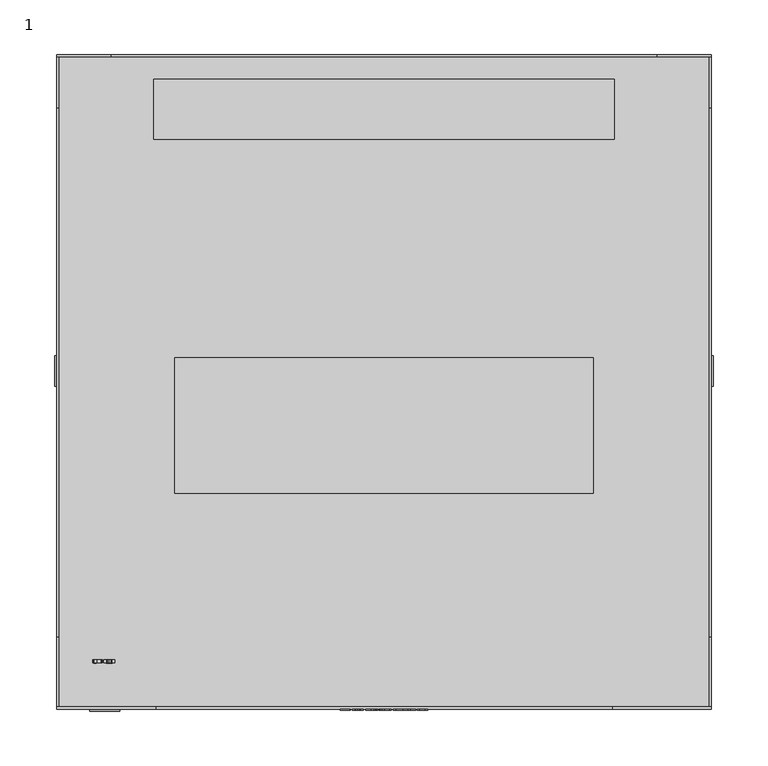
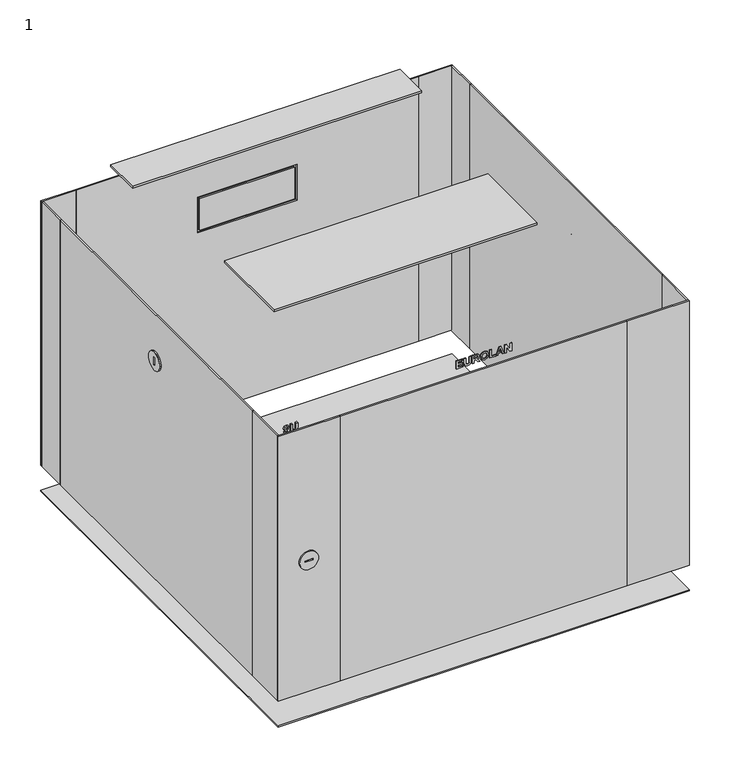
"""IFC4 building model written with IfcOpenShell, lengths in millimetres: proxy geometry, 1 : 9U 600мм стеклянная дверь."""

from ifc_helpers import new_model, si_unit, point, frame, frame_2d, origin, origin_with_axes, place, context, project, spatial, polyline, circle_curve, trimmed, segment, composite_curve, outline, extrude, source, transform, mapped, element, save


def proxy_1_adbcd2c0(model_context):
    return source(origin(), model_context, "Body", "SweptSolid", [
        extrude(outline(polyline([(462.0, -40.3245382), (462.0, -30.9964522), (464.1376864, -30.9964522), (464.1376864, -37.9925167), (467.2470483, -37.9925167), (467.2470483, -31.5794576), (469.3847347, -31.5794576), (469.3847347, -37.9925167), (472.1054264, -37.9925167), (472.1054264, -31.1907874), (474.2431128, -31.1907874), (474.2431128, -40.3245382), (462.0, -40.3245382)])), frame((0.0, -301.0, 0.0), z_axis=(0.0, 1.0, 0.0), x_axis=(0.0, 0.0, 1.0)), (0.0, 0.0, 1.0), 1.0),
        extrude(outline(polyline([(474.2431128, -29.053101), (467.7207402, -29.053101), (464.6174512, -28.8071456), (463.2601418, -28.1026808), (462.2095176, -26.6482039), (461.8056649, -23.9487675), (462.1761162, -21.5575346), (463.173602, -20.0954664), (464.7085458, -19.3454543), (467.8209443, -19.1420097), (474.2431128, -19.1420097), (474.2431128, -21.4740312), (467.4960402, -21.4740312), (465.4236383, -21.5924541), (464.3714958, -22.2923642), (463.9433512, -24.0216432), (464.3973059, -25.7979877), (465.5982363, -26.6208755), (467.6387551, -26.7210795), (474.2431128, -26.7210795), (474.2431128, -29.053101)])), frame((0.0, -301.0, 0.0), z_axis=(0.0, 1.0, 0.0), x_axis=(0.0, 0.0, 1.0)), (0.0, 0.0, 1.0), 1.0),
        extrude(outline(polyline([(462.0, -16.8099882), (462.0, -14.4779667), (467.0527132, -13.9435451), (466.9251808, -12.6120459), (466.4560437, -11.8164865), (464.7966039, -10.4242575), (462.0, -8.6509495), (462.0, -5.9272213), (464.3745323, -7.424209), (466.3512849, -8.7238252), (467.3715443, -9.9475291), (468.5071902, -7.6625732), (470.7936644, -6.8988969), (472.7339791, -7.4272455), (473.9121358, -8.8361752), (474.2431128, -11.6601074), (474.2431128, -16.8099882), (462.0, -16.8099882)]), holes=[polyline([(469.1903996, -14.4779667), (472.1054264, -14.4779667), (472.1054264, -12.4495939), (472.0659521, -10.5548264), (471.6150339, -9.5770778), (470.6782779, -9.2309184), (469.817434, -9.4935744), (469.3315962, -10.2223312), (469.1903996, -12.5558709), (469.1903996, -14.4779667)])]), frame((0.0, -301.0, 0.0), z_axis=(0.0, 1.0, 0.0), x_axis=(0.0, 0.0, 1.0)), (0.0, 0.0, 1.0), 1.0),
        extrude(outline(polyline([(468.0456442, -4.9555457), (463.4681411, -3.3735363), (461.8056649, 0.8896905), (463.4757323, 5.1225524), (468.106374, 6.7045618), (472.7628257, 5.1104065), (474.4374479, 0.8593256), (473.9546466, -1.7338337), (472.8539203, -3.2869964), (471.1792981, -4.4059416), (468.0456442, -4.9555457)]), holes=[polyline([(468.1306659, -2.6235242), (471.2612832, -1.6579215), (472.2997616, 0.886654), (471.2734292, 3.4190836), (468.1640672, 4.3725403), (464.9985302, 3.3932735), (463.9433512, 0.886654), (465.0061214, -1.6321114), (468.1306659, -2.6235242)])]), frame((0.0, -301.0, 0.0), z_axis=(0.0, 1.0, 0.0), x_axis=(0.0, 0.0, 1.0)), (0.0, 0.0, 1.0), 1.0),
        extrude(outline(polyline([(462.0, 8.647913), (462.0, 17.1986585), (464.1376864, 17.1986585), (464.1376864, 10.9799345), (474.2431128, 10.9799345), (474.2431128, 8.647913), (462.0, 8.647913)])), frame((0.0, -301.0, 0.0), z_axis=(0.0, 1.0, 0.0), x_axis=(0.0, 0.0, 1.0)), (0.0, 0.0, 1.0), 1.0),
        extrude(outline(polyline([(462.0, 29.2474361), (474.2431128, 24.7352175), (474.2431128, 22.2513717), (462.0, 17.7816638), (462.0, 20.2655096), (464.7206917, 21.2128934), (464.7206917, 25.837462), (462.0, 26.7969917), (462.0, 29.2474361)]), holes=[polyline([(466.8583781, 25.0904864), (466.8583781, 21.959869), (471.3280859, 23.51455), (466.8583781, 25.0904864)])]), frame((0.0, -301.0, 0.0), z_axis=(0.0, 1.0, 0.0), x_axis=(0.0, 0.0, 1.0)), (0.0, 0.0, 1.0), 1.0),
        extrude(outline(polyline([(462.0, 30.4134469), (462.0, 32.7454684), (470.1195644, 32.7454684), (462.0, 37.8042546), (462.0, 40.3245382), (474.2431128, 40.3245382), (474.2431128, 37.9925167), (466.002089, 37.9925167), (474.2431128, 32.8578184), (474.2431128, 30.4134469), (462.0, 30.4134469)])), frame((0.0, -301.0, 0.0), z_axis=(0.0, 1.0, 0.0), x_axis=(0.0, 0.0, 1.0)), (0.0, 0.0, 1.0), 1.0),
        extrude(outline(composite_curve([segment(trimmed(circle_curve(frame_2d((9.997621, 377.4611412)), 14.0), [point((-4.002379, 377.4611412))], [point((23.997621, 377.4611412))], False, "CARTESIAN"), True, "CONTINUOUS"), segment(trimmed(circle_curve(frame_2d((9.997621, 377.4611412)), 14.0), [point((23.997621, 377.4611412))], [point((-4.002379, 377.4611412))], False, "CARTESIAN"), True, "CONTINUOUS")], self_intersect=False), holes=[polyline([(11.0, 383.5), (9.0, 383.5), (9.0, 371.5), (11.0, 371.5), (11.0, 383.5)])]), frame((-302.0, 0.0, 0.0), z_axis=(1.0, 0.0, 0.0), x_axis=(0.0, 1.0, 0.0)), (0.0, 0.0, 1.0), 2.0),
        extrude(outline(composite_curve([segment(trimmed(circle_curve(frame_2d((9.997621, 377.4611412)), 14.0), [point((-4.002379, 377.4611412))], [point((23.997621, 377.4611412))], False, "CARTESIAN"), True, "CONTINUOUS"), segment(trimmed(circle_curve(frame_2d((9.997621, 377.4611412)), 14.0), [point((23.997621, 377.4611412))], [point((-4.002379, 377.4611412))], False, "CARTESIAN"), True, "CONTINUOUS")], self_intersect=False), holes=[polyline([(11.0, 383.5), (9.0, 383.5), (9.0, 371.5), (11.0, 371.5), (11.0, 383.5)])]), frame((300.0, 0.0, 0.0), z_axis=(1.0, 0.0, 0.0), x_axis=(0.0, 1.0, 0.0)), (0.0, 0.0, 1.0), 2.0),
        extrude(outline(composite_curve([segment(trimmed(circle_curve(frame_2d((243.0, -256.0)), 13.7647373), [point((243.0, -242.2352627))], [point((243.0, -269.7647373))], False, "CARTESIAN"), True, "CONTINUOUS"), segment(trimmed(circle_curve(frame_2d((243.0, -256.0)), 13.7647373), [point((243.0, -269.7647373))], [point((243.0, -242.2352627))], False, "CARTESIAN"), True, "CONTINUOUS")], self_intersect=False), holes=[polyline([(244.0, -250.0), (242.0, -250.0), (242.0, -262.0), (244.0, -262.0), (244.0, -250.0)])]), frame((0.0, -302.0, 0.0), z_axis=(0.0, 1.0, 0.0), x_axis=(0.0, 0.0, 1.0)), (0.0, 0.0, 1.0), 2.0),
        extrude(outline(polyline([(300.0, 300.0), (300.0, -300.0), (-300.0, -300.0), (-300.0, 300.0), (300.0, 300.0)])), origin_with_axes(), (0.0, 0.0, 1.0), 2.0),
        extrude(outline(polyline([(211.0, 277.5), (211.0, 222.5), (-211.0, 222.5), (-211.0, 277.5), (211.0, 277.5)])), frame((0.0, 0.0, 482.9795778), z_axis=(0.0, 0.0, 1.0), x_axis=(1.0, 0.0, 0.0)), (0.0, 0.0, 1.0), 3.0204222),
        extrude(outline(polyline([(192.0, 22.0), (192.0, -102.0), (-192.0, -102.0), (-192.0, 22.0), (192.0, 22.0)])), frame((0.0, 0.0, 482.9795778), z_axis=(0.0, 0.0, 1.0), x_axis=(1.0, 0.0, 0.0)), (0.0, 0.0, 1.0), 3.0204222),
        extrude(outline(polyline([(-69.5, 300.0), (69.5, 300.0), (69.5, 298.0), (-69.5, 298.0), (-69.5, 300.0)])), frame((0.0, 0.0, 323.0), z_axis=(0.0, 0.0, 1.0), x_axis=(1.0, 0.0, 0.0)), (0.0, 0.0, 1.0), 49.0),
        extrude(outline(polyline([(448.0, -250.0), (40.0, -250.0), (40.0, 250.0), (448.0, 250.0), (448.0, -250.0)]), holes=[polyline([(375.0, -72.5), (375.0, 72.5), (320.0, 72.5), (320.0, -72.5), (375.0, -72.5)])]), frame((0.0, 298.0, 0.0), z_axis=(0.0, 1.0, 0.0), x_axis=(0.0, 0.0, 1.0)), (0.0, 0.0, 1.0), 2.0),
        extrude(outline(polyline([(-300.0, 300.0), (-250.0, 300.0), (-250.0, 298.0), (-300.0, 298.0), (-300.0, 300.0)])), frame((0.0, 0.0, 40.0), z_axis=(0.0, 0.0, 1.0), x_axis=(1.0, 0.0, 0.0)), (0.0, 0.0, 1.0), 408.0),
        extrude(outline(polyline([(250.0, 300.0), (300.0, 300.0), (300.0, 298.0), (250.0, 298.0), (250.0, 300.0)])), frame((0.0, 0.0, 40.0), z_axis=(0.0, 0.0, 1.0), x_axis=(1.0, 0.0, 0.0)), (0.0, 0.0, 1.0), 408.0),
        extrude(outline(polyline([(-209.0, -298.0), (209.0, -298.0), (209.0, -300.0), (-209.0, -300.0), (-209.0, -298.0)])), frame((0.0, 0.0, 40.0), z_axis=(0.0, 0.0, 1.0), x_axis=(1.0, 0.0, 0.0)), (0.0, 0.0, 1.0), 408.0),
        extrude(outline(polyline([(209.0, -298.0), (300.0, -298.0), (300.0, -300.0), (209.0, -300.0), (209.0, -298.0)])), frame((0.0, 0.0, 40.0), z_axis=(0.0, 0.0, 1.0), x_axis=(1.0, 0.0, 0.0)), (0.0, 0.0, 1.0), 408.0),
        extrude(outline(polyline([(-300.0, -298.0), (-209.0, -298.0), (-209.0, -300.0), (-300.0, -300.0), (-300.0, -298.0)])), frame((0.0, 0.0, 40.0), z_axis=(0.0, 0.0, 1.0), x_axis=(1.0, 0.0, 0.0)), (0.0, 0.0, 1.0), 408.0),
        extrude(outline(polyline([(-298.0, 250.8155315), (-298.0, -233.7095641), (-300.0, -233.7095641), (-300.0, 250.8155315), (-298.0, 250.8155315)])), frame((0.0, 0.0, 40.0), z_axis=(0.0, 0.0, 1.0), x_axis=(1.0, 0.0, 0.0)), (0.0, 0.0, 1.0), 408.0),
        extrude(outline(polyline([(-298.0, -233.7095641), (-298.0, -300.0), (-300.0, -300.0), (-300.0, -233.7095641), (-298.0, -233.7095641)])), frame((0.0, 0.0, 40.0), z_axis=(0.0, 0.0, 1.0), x_axis=(1.0, 0.0, 0.0)), (0.0, 0.0, 1.0), 408.0),
        extrude(outline(polyline([(-298.0, 300.0), (-298.0, 250.8155315), (-300.0, 250.8155315), (-300.0, 300.0), (-298.0, 300.0)])), frame((0.0, 0.0, 40.0), z_axis=(0.0, 0.0, 1.0), x_axis=(1.0, 0.0, 0.0)), (0.0, 0.0, 1.0), 408.0),
        extrude(outline(polyline([(300.0, 250.8155315), (300.0, -233.7095641), (298.0, -233.7095641), (298.0, 250.8155315), (300.0, 250.8155315)])), frame((0.0, 0.0, 40.0), z_axis=(0.0, 0.0, 1.0), x_axis=(1.0, 0.0, 0.0)), (0.0, 0.0, 1.0), 408.0),
        extrude(outline(polyline([(300.0, 300.0), (300.0, 250.8155315), (298.0, 250.8155315), (298.0, 300.0), (300.0, 300.0)])), frame((0.0, 0.0, 40.0), z_axis=(0.0, 0.0, 1.0), x_axis=(1.0, 0.0, 0.0)), (0.0, 0.0, 1.0), 408.0),
        extrude(outline(polyline([(300.0, -233.7095641), (300.0, -300.0), (298.0, -300.0), (298.0, -233.7095641), (300.0, -233.7095641)])), frame((0.0, 0.0, 40.0), z_axis=(0.0, 0.0, 1.0), x_axis=(1.0, 0.0, 0.0)), (0.0, 0.0, 1.0), 408.0),
        extrude(outline(polyline([(416.2414631, -266.2387962), (413.8062011, -265.1547706), (412.9924228, -262.9381356), (414.4696734, -259.8469925), (419.2870589, -258.6597264), (423.9981674, -259.7953723), (425.4298707, -262.7012897), (424.3169985, -265.3809888), (421.3852709, -266.4331314), (418.550711, -265.4083172), (417.4621306, -262.971537), (418.476317, -260.8065222), (415.7753625, -261.4290019), (415.1301091, -262.6071586), (415.4641226, -263.4922944), (416.490455, -263.9067747), (416.2414631, -266.2387962)]), holes=[polyline([(421.3306142, -260.9917479), (420.0385892, -261.4365931), (419.599817, -262.5312464), (420.0568082, -263.6517099), (421.4885115, -264.1011099), (422.8701127, -263.6881477), (423.2921843, -262.6496694), (422.7774999, -261.4927681), (421.3306142, -260.9917479)])]), frame((0.0, -257.6777479, 0.0), z_axis=(0.0, 1.0, 0.0), x_axis=(0.0, 0.0, 1.0)), (0.0, 0.0, 1.0), 3.0),
        extrude(outline(polyline([(425.4298707, -256.7163752), (418.9074981, -256.7163752), (415.8042091, -256.4704198), (414.4468997, -255.7659549), (413.3962754, -254.311478), (412.9924228, -251.6120417), (413.3628741, -249.2208087), (414.3603599, -247.7587405), (415.8953037, -247.0087284), (419.0077021, -246.8052838), (425.4298707, -246.8052838), (425.4298707, -249.1373053), (418.6827981, -249.1373053), (416.6103962, -249.2557283), (415.5582537, -249.9556384), (415.1301091, -251.6849173), (415.5840638, -253.4612618), (416.7849942, -254.2841496), (418.825513, -254.3843537), (425.4298707, -254.3843537), (425.4298707, -256.7163752)])), frame((0.0, -257.6777479, 0.0), z_axis=(0.0, 1.0, 0.0), x_axis=(0.0, 0.0, 1.0)), (0.0, 0.0, 1.0), 3.0),
        extrude(outline(polyline([(376.4962498, -264.3865396), (375.2254803, -265.9397023), (373.4172527, -266.4331314), (370.6024299, -265.1669166), (369.7339948, -262.4826627), (370.784619, -259.7042777), (373.5174567, -258.6597264), (375.3120201, -259.1865568), (376.4962498, -260.7245371), (377.508918, -259.3444541), (379.0226064, -258.8540615), (381.280234, -259.8227007), (382.1714427, -262.5464289), (381.280234, -265.2777483), (379.0226064, -266.2387962), (377.5499105, -265.7985057), (376.4962498, -264.3865396)]), holes=[polyline([(378.8798915, -263.9067747), (380.000355, -263.5332869), (380.4224266, -262.5312464), (380.0033915, -261.5550161), (378.889001, -261.186083), (377.7320997, -261.5595708), (377.3130646, -262.5555383), (377.727545, -263.5378417), (378.8798915, -263.9067747)]), polyline([(373.6146243, -264.1011099), (374.94916, -263.7169943), (375.5640485, -262.5494654), (375.0220357, -261.4320384), (373.5872959, -260.9917479), (372.0250237, -261.4244472), (371.4830109, -262.5191005), (372.0462791, -263.6486734), (373.6146243, -264.1011099)])]), frame((0.0, -257.6777479, 0.0), z_axis=(0.0, 1.0, 0.0), x_axis=(0.0, 0.0, 1.0)), (0.0, 0.0, 1.0), 3.0),
        extrude(outline(polyline([(382.1714427, -256.7163752), (375.6490701, -256.7163752), (372.5457811, -256.4704198), (371.1884717, -255.7659549), (370.1378475, -254.311478), (369.7339948, -251.6120417), (370.1044461, -249.2208087), (371.1019319, -247.7587405), (372.6368757, -247.0087284), (375.7492742, -246.8052838), (382.1714427, -246.8052838), (382.1714427, -249.1373053), (375.4243701, -249.1373053), (373.3519682, -249.2557283), (372.2998257, -249.9556384), (371.8716811, -251.6849173), (372.3256358, -253.4612618), (373.5265662, -254.2841496), (375.567085, -254.3843537), (382.1714427, -254.3843537), (382.1714427, -256.7163752)])), frame((0.0, -257.6777479, 0.0), z_axis=(0.0, 1.0, 0.0), x_axis=(0.0, 0.0, 1.0)), (0.0, 0.0, 1.0), 3.0),
        extrude(outline(polyline([(334.6450861, -266.4331314), (334.6450861, -261.3257614), (330.0129262, -264.008497), (324.9283299, -265.0727855), (324.9283299, -262.740764), (328.5812229, -262.2154519), (332.440597, -260.6622891), (335.2280915, -258.6597264), (336.9771076, -258.6597264), (336.9771076, -266.4331314), (334.6450861, -266.4331314)])), frame((0.0, -257.6777479, 0.0), z_axis=(0.0, 1.0, 0.0), x_axis=(0.0, 0.0, 1.0)), (0.0, 0.0, 1.0), 3.0),
        extrude(outline(polyline([(337.1714427, -256.7163752), (330.6490701, -256.7163752), (327.5457811, -256.4704198), (326.1884717, -255.7659549), (325.1378475, -254.311478), (324.7339948, -251.6120417), (325.1044461, -249.2208087), (326.1019319, -247.7587405), (327.6368757, -247.0087284), (330.7492742, -246.8052838), (337.1714427, -246.8052838), (337.1714427, -249.1373053), (330.4243701, -249.1373053), (328.3519682, -249.2557283), (327.2998257, -249.9556384), (326.8716811, -251.6849173), (327.3256358, -253.4612618), (328.5265662, -254.2841496), (330.567085, -254.3843537), (337.1714427, -254.3843537), (337.1714427, -256.7163752)])), frame((0.0, -257.6777479, 0.0), z_axis=(0.0, 1.0, 0.0), x_axis=(0.0, 0.0, 1.0)), (0.0, 0.0, 1.0), 3.0),
        extrude(outline(polyline([(287.6111434, -258.8540615), (290.0281866, -259.9654155), (290.8601838, -262.1668681), (289.381415, -265.2473834), (284.5534017, -266.4331314), (279.8559574, -265.2974855), (278.4227359, -262.4006775), (279.5325716, -259.7073142), (282.4764451, -258.6597264), (285.2973409, -259.6845405), (286.390476, -262.1486492), (285.3671801, -264.2802626), (288.0772441, -263.6638558), (288.7224974, -262.4674802), (288.3900022, -261.5990451), (287.3621516, -261.186083), (287.6111434, -258.8540615)]), holes=[polyline([(282.5280654, -264.1011099), (283.8155356, -263.6532281), (284.2527896, -262.5585748), (283.7957984, -261.4396296), (282.3549856, -260.9917479), (280.9794573, -261.4077465), (280.5604222, -262.4462248), (281.0720702, -263.5970531), (282.5280654, -264.1011099)])]), frame((0.0, -257.6777479, 0.0), z_axis=(0.0, 1.0, 0.0), x_axis=(0.0, 0.0, 1.0)), (0.0, 0.0, 1.0), 3.0),
        extrude(outline(polyline([(290.8601838, -256.7163752), (284.3378112, -256.7163752), (281.2345222, -256.4704198), (279.8772128, -255.7659549), (278.8265886, -254.311478), (278.4227359, -251.6120417), (278.7931872, -249.2208087), (279.790673, -247.7587405), (281.3256168, -247.0087284), (284.4380153, -246.8052838), (290.8601838, -246.8052838), (290.8601838, -249.1373053), (284.1131112, -249.1373053), (282.0407093, -249.2557283), (280.9885668, -249.9556384), (280.5604222, -251.6849173), (281.0143769, -253.4612618), (282.2153073, -254.2841496), (284.2558261, -254.3843537), (290.8601838, -254.3843537), (290.8601838, -256.7163752)])), frame((0.0, -257.6777479, 0.0), z_axis=(0.0, 1.0, 0.0), x_axis=(0.0, 0.0, 1.0)), (0.0, 0.0, 1.0), 3.0),
        extrude(outline(polyline([(237.3503584, -266.4331314), (234.6964693, -265.1957632), (233.7096113, -262.522137), (235.2825112, -259.312571), (237.9029989, -258.4653913), (240.7679237, -259.4826142), (241.8716865, -261.960387), (241.3949581, -263.4634477), (243.6207026, -262.9927924), (243.6207026, -259.0483966), (245.9527241, -259.0483966), (245.9527241, -264.8784504), (239.0629366, -266.2387962), (238.7623245, -264.2164963), (239.7340001, -262.509991), (239.2633447, -261.2726229), (237.8513786, -260.7974128), (236.3467996, -261.3090607), (235.8472976, -262.5585748), (236.317953, -263.7002937), (237.5963138, -264.295445), (237.3503584, -266.4331314)])), frame((0.0, -257.6777479, 0.0), z_axis=(0.0, 1.0, 0.0), x_axis=(0.0, 0.0, 1.0)), (0.0, 0.0, 1.0), 3.0),
        extrude(outline(polyline([(246.1470592, -256.7163752), (239.6246866, -256.7163752), (236.5213976, -256.4704198), (235.1640882, -255.7659549), (234.113464, -254.311478), (233.7096113, -251.6120417), (234.0800626, -249.2208087), (235.0775484, -247.7587405), (236.6124922, -247.0087284), (239.7248907, -246.8052838), (246.1470592, -246.8052838), (246.1470592, -249.1373053), (239.3999866, -249.1373053), (237.3275847, -249.2557283), (236.2754422, -249.9556384), (235.8472976, -251.6849173), (236.3012523, -253.4612618), (237.5021827, -254.2841496), (239.5427015, -254.3843537), (246.1470592, -254.3843537), (246.1470592, -256.7163752)])), frame((0.0, -257.6777479, 0.0), z_axis=(0.0, 1.0, 0.0), x_axis=(0.0, 0.0, 1.0)), (0.0, 0.0, 1.0), 3.0),
        extrude(outline(polyline([(189.9283299, -262.1577586), (189.9283299, -259.8257371), (192.4546865, -259.8257371), (192.4546865, -258.2710562), (194.3980377, -258.2710562), (194.3980377, -259.8257371), (201.9771076, -259.8257371), (201.9771076, -261.848037), (194.3889283, -266.8218016), (192.4546865, -266.8218016), (192.4546865, -262.1577586), (189.9283299, -262.1577586)]), holes=[polyline([(194.3980377, -262.1577586), (194.3980377, -264.7630639), (198.3758348, -262.1577586), (194.3980377, -262.1577586)])]), frame((0.0, -257.6777479, 0.0), z_axis=(0.0, 1.0, 0.0), x_axis=(0.0, 0.0, 1.0)), (0.0, 0.0, 1.0), 3.0),
        extrude(outline(polyline([(202.1714427, -256.7163752), (195.6490701, -256.7163752), (192.5457811, -256.4704198), (191.1884717, -255.7659549), (190.1378475, -254.311478), (189.7339948, -251.6120417), (190.1044461, -249.2208087), (191.1019319, -247.7587405), (192.6368757, -247.0087284), (195.7492742, -246.8052838), (202.1714427, -246.8052838), (202.1714427, -249.1373053), (195.4243701, -249.1373053), (193.3519682, -249.2557283), (192.2998257, -249.9556384), (191.8716811, -251.6849173), (192.3256358, -253.4612618), (193.5265662, -254.2841496), (195.567085, -254.3843537), (202.1714427, -254.3843537), (202.1714427, -256.7163752)])), frame((0.0, -257.6777479, 0.0), z_axis=(0.0, 1.0, 0.0), x_axis=(0.0, 0.0, 1.0)), (0.0, 0.0, 1.0), 3.0),
        extrude(outline(polyline([(148.35045, -266.4331314), (145.734517, -265.2200551), (144.7339948, -262.5859032), (145.859013, -259.7847446), (148.5781864, -258.6597264), (150.4562532, -259.294352), (151.4567755, -260.9887114), (154.0286794, -259.2427318), (156.0691982, -260.0565101), (157.1714427, -262.6739613), (156.773663, -264.3971673), (155.6820462, -265.5965794), (153.8282713, -266.2387962), (153.4790753, -263.9067747), (154.6374949, -263.4892579), (155.0337563, -262.6587789), (154.6921516, -261.8708107), (153.776651, -261.5747533), (152.6956619, -261.9710147), (152.3130646, -263.1203248), (150.3909688, -263.3237694), (150.5640485, -262.397641), (150.0812472, -261.4001553), (148.7725216, -260.9917479), (147.3863656, -261.4381114), (146.8716811, -262.5403559), (147.3210811, -263.5757977), (148.6206973, -264.1011099), (148.35045, -266.4331314)])), frame((0.0, -257.6777479, 0.0), z_axis=(0.0, 1.0, 0.0), x_axis=(0.0, 0.0, 1.0)), (0.0, 0.0, 1.0), 3.0),
        extrude(outline(polyline([(157.1714427, -256.7163752), (150.6490701, -256.7163752), (147.5457811, -256.4704198), (146.1884717, -255.7659549), (145.1378475, -254.311478), (144.7339948, -251.6120417), (145.1044461, -249.2208087), (146.1019319, -247.7587405), (147.6368757, -247.0087284), (150.7492742, -246.8052838), (157.1714427, -246.8052838), (157.1714427, -249.1373053), (150.4243701, -249.1373053), (148.3519682, -249.2557283), (147.2998257, -249.9556384), (146.8716811, -251.6849173), (147.3256358, -253.4612618), (148.5265662, -254.2841496), (150.567085, -254.3843537), (157.1714427, -254.3843537), (157.1714427, -256.7163752)])), frame((0.0, -257.6777479, 0.0), z_axis=(0.0, 1.0, 0.0), x_axis=(0.0, 0.0, 1.0)), (0.0, 0.0, 1.0), 3.0),
        extrude(outline(polyline([(103.3014708, -258.8246798), (103.9391329, -262.7326376), (105.2660774, -261.4011384), (106.7964665, -259.9512162), (108.3298921, -259.094927), (109.8724272, -258.8246798), (112.2545507, -259.8115378), (113.2125621, -262.5261566), (112.3577912, -265.1527172), (109.5384137, -266.4037496), (109.3258596, -264.0717281), (110.6695048, -263.6223281), (111.0748758, -262.5777768), (110.6634319, -261.5347438), (109.4837569, -261.1567012), (108.0809003, -261.6061012), (106.1254031, -263.4097741), (103.2574418, -265.8541456), (100.9694493, -266.5980847), (100.9694493, -258.8246798), (103.3014708, -258.8246798)])), frame((0.0, -257.6777479, 0.0), z_axis=(0.0, 1.0, 0.0), x_axis=(0.0, 0.0, 1.0)), (0.0, 0.0, 1.0), 3.0),
        extrude(outline(polyline([(113.2125621, -256.8813285), (106.6901895, -256.8813285), (103.5869005, -256.6353731), (102.2295911, -255.9309083), (101.1789669, -254.4764314), (100.7751142, -251.776995), (101.1455655, -249.3857621), (102.1430513, -247.9236939), (103.6779951, -247.1736818), (106.7903936, -246.9702372), (113.2125621, -246.9702372), (113.2125621, -249.3022587), (106.4654895, -249.3022587), (104.3930876, -249.4206817), (103.3409451, -250.1205917), (102.9128006, -251.8498707), (103.3667553, -253.6262152), (104.5676856, -254.449103), (106.6082044, -254.549307), (113.2125621, -254.549307), (113.2125621, -256.8813285)])), frame((0.0, -257.6777479, 0.0), z_axis=(0.0, 1.0, 0.0), x_axis=(0.0, 0.0, 1.0)), (0.0, 0.0, 1.0), 3.0),
        extrude(outline(polyline([(59.9283299, -260.6030776), (72.1714427, -260.6030776), (72.1714427, -262.4614073), (70.2053178, -263.9037383), (69.0620807, -265.850126), (66.7300592, -265.850126), (68.6794834, -262.9350991), (59.9283299, -262.9350991), (59.9283299, -260.6030776)])), frame((0.0, -257.6777479, 0.0), z_axis=(0.0, 1.0, 0.0), x_axis=(0.0, 0.0, 1.0)), (0.0, 0.0, 1.0), 3.0),
        extrude(outline(polyline([(72.1714427, -256.7163752), (65.6490701, -256.7163752), (62.5457811, -256.4704198), (61.1884717, -255.7659549), (60.1378475, -254.311478), (59.7339948, -251.6120417), (60.1044461, -249.2208087), (61.1019319, -247.7587405), (62.6368757, -247.0087284), (65.7492742, -246.8052838), (72.1714427, -246.8052838), (72.1714427, -249.1373053), (65.4243701, -249.1373053), (63.3519682, -249.2557283), (62.2998257, -249.9556384), (61.8716811, -251.6849173), (62.3256358, -253.4612618), (63.5265662, -254.2841496), (65.567085, -254.3843537), (72.1714427, -254.3843537), (72.1714427, -256.7163752)])), frame((0.0, -257.6777479, 0.0), z_axis=(0.0, 1.0, 0.0), x_axis=(0.0, 0.0, 1.0)), (0.0, 0.0, 1.0), 3.0),
    ])


if __name__ == "__main__":
    model = new_model("IFC4")
    model_context = context("Model", 3, world=origin())
    ifc_project = project(units=[si_unit("LENGTHUNIT", "METRE", prefix="MILLI")], contexts=[model_context])
    site = spatial("IfcSite", under=ifc_project)
    building = spatial("IfcBuilding", under=site)
    placement = place(None, origin())
    proxy_1_shape = proxy_1_adbcd2c0(model_context)
    element("IfcBuildingElementProxy", 1, Name="1 : 9U 600мм стеклянная дверь", ObjectType="1 : 9U 600мм стеклянная дверь", at=placement, inside=building, context=model_context, shape_type="MappedRepresentation", body=[
        mapped(proxy_1_shape, transform((0.0, 0.0, 0.0), x_axis=(1.0, 0.0, 0.0), y_axis=(0.0, 1.0, 0.0), z_axis=(0.0, 0.0, 1.0))),
    ])
    save(model, "model.ifc")
